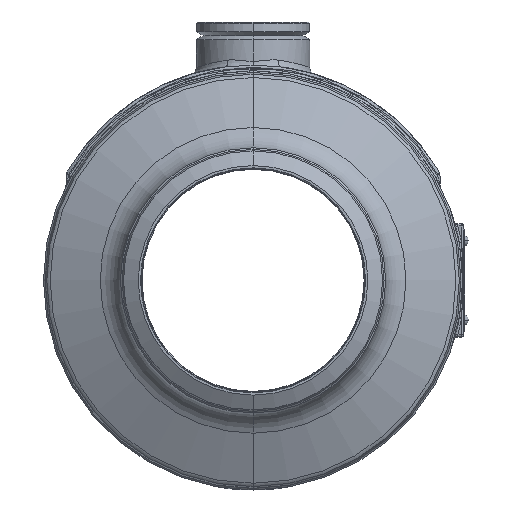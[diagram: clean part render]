
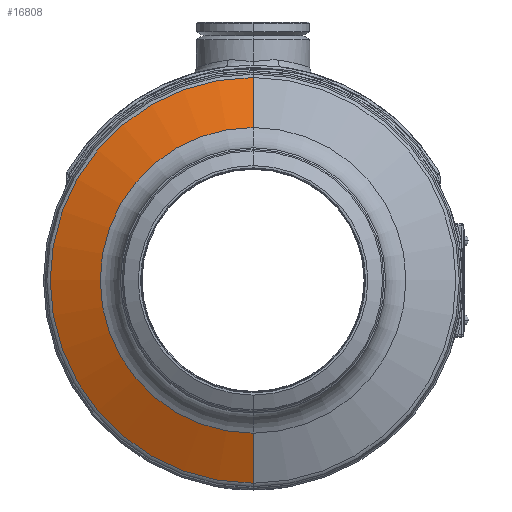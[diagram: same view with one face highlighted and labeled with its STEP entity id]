
A CAD part, left-side view. The second image highlights one B-rep face of the part: STEP entity #16808.
In plain terms, the highlighted conical face has half-angle 66.194 degrees and reference radius 78.482 mm.
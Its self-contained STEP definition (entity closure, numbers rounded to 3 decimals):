
#5051=CARTESIAN_POINT('',(-65.515,0.,0.));
#5052=DIRECTION('',(1.,0.,0.));
#5053=DIRECTION('',(0.,0.,-1.));
#5054=AXIS2_PLACEMENT_3D('',#5051,#5052,#5053);
#5056=CARTESIAN_POINT('',(-75.254,0.,0.));
#5057=DIRECTION('',(1.,0.,0.));
#5058=DIRECTION('',(0.,0.,-1.));
#5059=AXIS2_PLACEMENT_3D('',#5056,#5057,#5058);
#5066=DIRECTION('',(-0.404,0.,0.915));
#5067=VECTOR('',#5066,24.125);
#5068=CARTESIAN_POINT('',(-65.515,0.,
-89.518));
#5069=LINE('',#5068,#5067);
#5075=DIRECTION('',(-0.404,0.,-0.915));
#5076=VECTOR('',#5075,24.125);
#5077=CARTESIAN_POINT('',(-65.515,0.,
89.518));
#5078=LINE('',#5077,#5076);
#7016=CARTESIAN_POINT('',(-65.515,0.,
-89.518));
#7017=CARTESIAN_POINT('',(-65.515,0.,
89.518));
#7018=VERTEX_POINT('',#7016);
#7019=VERTEX_POINT('',#7017);
#7024=CARTESIAN_POINT('',(-75.254,0.,67.445));
#7025=VERTEX_POINT('',#7024);
#7026=CARTESIAN_POINT('',(-75.254,0.,
-67.445));
#7027=VERTEX_POINT('',#7026);
#16794=CARTESIAN_POINT('',(-70.385,0.,0.));
#16795=DIRECTION('',(1.,0.,0.));
#16796=DIRECTION('',(0.,0.,1.));
#16797=AXIS2_PLACEMENT_3D('',#16794,#16795,#16796);
#16798=CONICAL_SURFACE('',#16797,78.482,66.194);
#16799=ORIENTED_EDGE('',*,*,#16788,.T.);
#16801=ORIENTED_EDGE('',*,*,#16800,.T.);
#16803=ORIENTED_EDGE('',*,*,#16802,.F.);
#16805=ORIENTED_EDGE('',*,*,#16804,.F.);
#16806=EDGE_LOOP('',(#16799,#16801,#16803,#16805));
#16807=FACE_OUTER_BOUND('',#16806,.F.);
#16808=ADVANCED_FACE('',(#16807),#16798,.T.);
#5055=CIRCLE('',#5054,89.518);
#5060=CIRCLE('',#5059,67.445);
#16788=EDGE_CURVE('',#7018,#7019,#5055,.T.);
#16800=EDGE_CURVE('',#7019,#7025,#5078,.T.);
#16802=EDGE_CURVE('',#7027,#7025,#5060,.T.);
#16804=EDGE_CURVE('',#7018,#7027,#5069,.T.);
